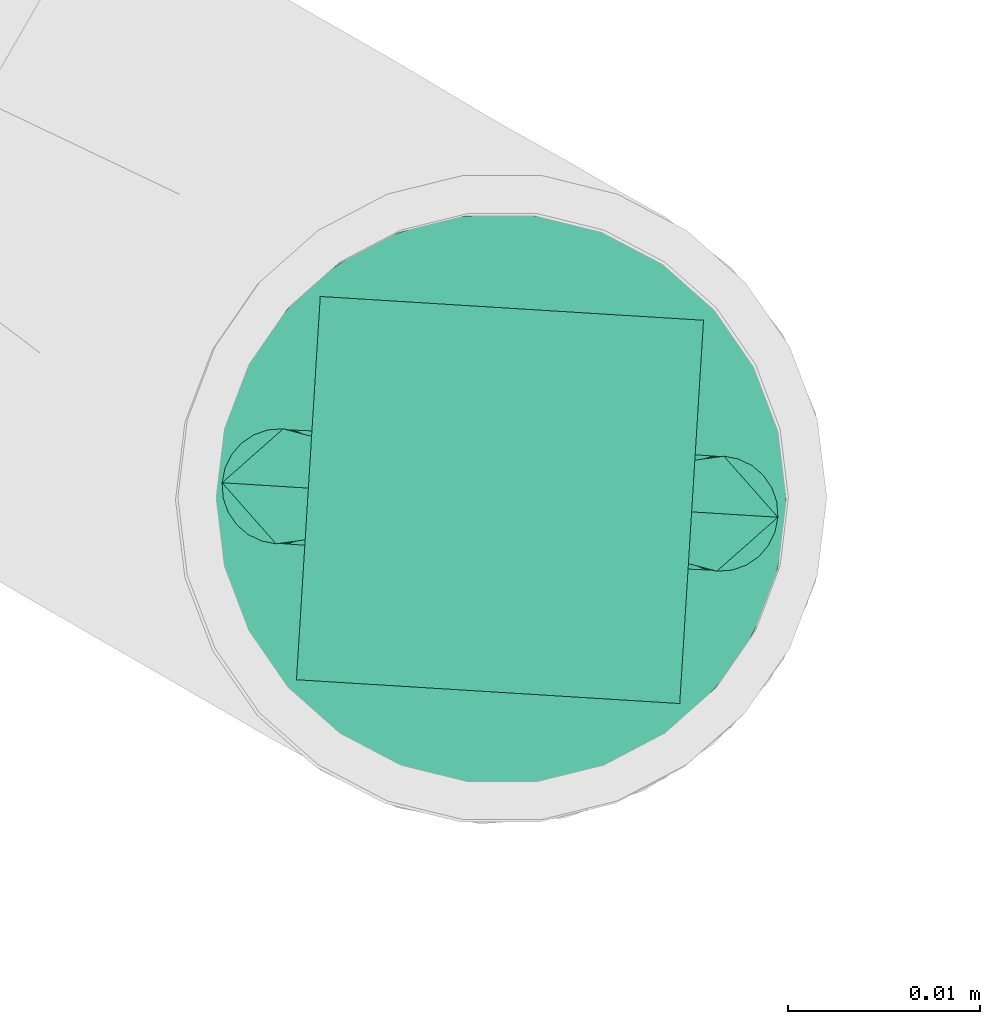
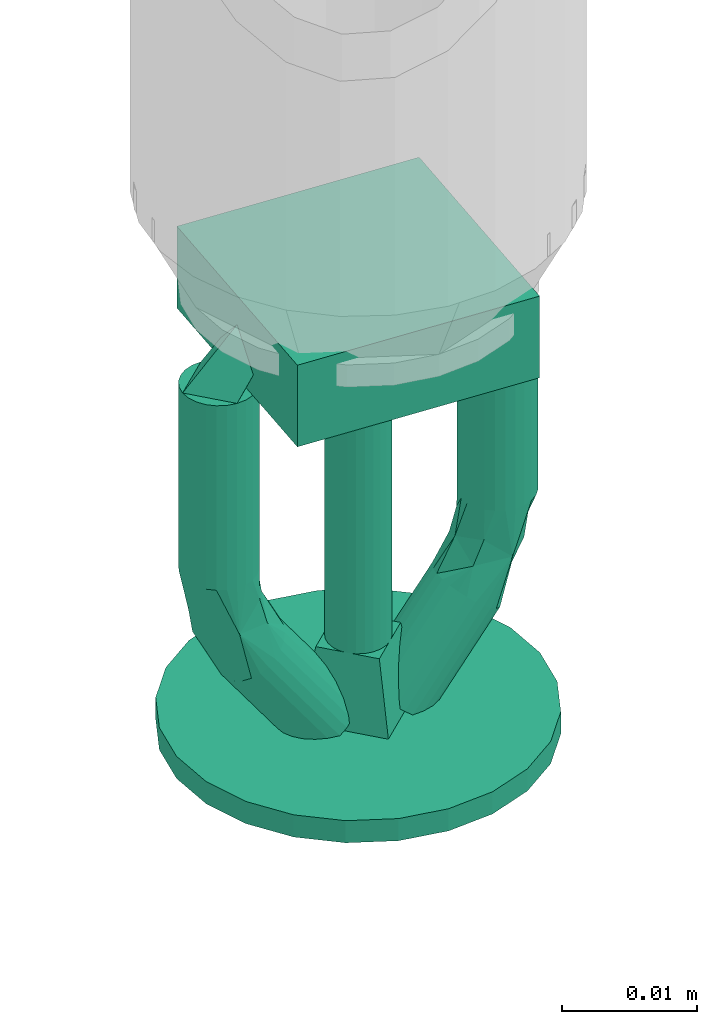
# One storey, part 93 of 95: 1 flow terminal.
"""IFC2X3 building model written with IfcOpenShell, lengths in millimetres."""

from ifc_helpers import new_model, entity, si_unit, converted_unit, derived_unit, direction, frame, origin_with_axes, place, context, subcontext, project, spatial, open_shell, surface_model, source, transform, mapped, type_object, element, save


model = new_model("IFC2X3")

# Units and contexts
model_context = context("Model", 3, precision=0.01, world=frame((0.0, 4.29681676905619e-09, 0.0)), true_north=direction((4.01073788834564e-13, 1.0)))
plan_context = context("Plan", 3, precision=0.01, world=frame((0.0, 4.29681676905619e-09, 0.0)), true_north=direction((4.01073788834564e-13, 1.0)))
body_context = subcontext(model_context, "Body", "Model", "MODEL_VIEW")
ifc_project = project(units=[converted_unit("PLANEANGLEUNIT", "DEGREE", entity("IfcPositiveLengthMeasure", 0.0174532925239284), si_unit("PLANEANGLEUNIT", "RADIAN"), dimensions=[0, 0, 0, 0, 0, 0, 0]), si_unit("AREAUNIT", "SQUARE_METRE"), si_unit("LENGTHUNIT", "METRE", prefix="MILLI"), si_unit("MASSUNIT", "GRAM", prefix="KILO"), si_unit("POWERUNIT", "WATT"), si_unit("PRESSUREUNIT", "PASCAL"), si_unit("FORCEUNIT", "NEWTON", prefix="KILO"), si_unit("ELECTRICVOLTAGEUNIT", "VOLT"), si_unit("ELECTRICCURRENTUNIT", "AMPERE"), si_unit("THERMODYNAMICTEMPERATUREUNIT", "DEGREE_CELSIUS"), si_unit("TIMEUNIT", "SECOND"), si_unit("VOLUMEUNIT", "CUBIC_METRE"), derived_unit("LINEARVELOCITYUNIT", [(si_unit("LENGTHUNIT", "METRE"), 1), (si_unit("TIMEUNIT", "SECOND"), -1)]), derived_unit("VOLUMETRICFLOWRATEUNIT", [(si_unit("VOLUMEUNIT", "CUBIC_METRE"), 1), (si_unit("TIMEUNIT", "SECOND"), -1)]), derived_unit("THERMALTRANSMITTANCEUNIT", [(si_unit("POWERUNIT", "WATT"), 1), (si_unit("THERMODYNAMICTEMPERATUREUNIT", "KELVIN"), -1), (si_unit("AREAUNIT", "SQUARE_METRE"), -1)]), derived_unit("SOUNDPRESSUREUNIT", [(si_unit("PRESSUREUNIT", "PASCAL"), 1)])], contexts=[model_context, plan_context])

# Site, building, storey
site_placement = place(None, frame((0.0, -4.29681676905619e-09, 0.0), z_axis=(0.0, 0.0, 1.0), x_axis=(1.0, 0.0, 0.0)))
site = spatial("IfcSite", under=ifc_project, at=site_placement, CompositionType="ELEMENT")
building_placement = place(site_placement, frame((0.0, 4.29681676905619e-09, 0.0), z_axis=(0.0, 0.0, 1.0), x_axis=(1.0, 0.0, 0.0)))
building = spatial("IfcBuilding", under=site, at=building_placement, Name="mc-building", CompositionType="ELEMENT")
storey_placement = place(building_placement, frame((0.0, 0.0, 210900.0), z_axis=(0.0, 0.0, 1.0), x_axis=(1.0, 0.0, 0.0)))
storey = spatial("IfcBuildingStorey", under=building, at=storey_placement, Name="Nivå F", CompositionType="ELEMENT", Elevation=210900.0)

# Flow terminal
fire_suppression_terminal_type = type_object("IfcFireSuppressionTerminalType", Name="BLP-K115-141C-STD", PredefinedType="NOTDEFINED")
shared_shape = source(origin_with_axes(), body_context, "Body", "SurfaceModel", [
    surface_model("IfcShellBasedSurfaceModel", [(10.0, 10.0, 7.36842), (-10.0, 10.0, 7.36842), (-10.0, -10.0, 7.36842), (10.0, -10.0, 7.36842), (10.0, -10.0, 0.0), (-10.0, -10.0, 0.0), (-10.0, 10.0, 0.0), (10.0, 10.0, 0.0), (3.88229, -14.48889, 42.0), (-3.88229, -14.48889, 42.0), (0.0, -15.0, 42.0), (14.48889, -3.88229, 42.0), (7.5, -12.99038, 42.0), (12.99038, -7.5, 42.0), (10.6066, -10.6066, 42.0), (-10.6066, -10.6066, 42.0), (-7.5, -12.99038, 42.0), (-14.48889, -3.88229, 42.0), (-12.99038, -7.5, 42.0), (-12.99038, 7.5, 42.0), (-15.0, 0.0, 42.0), (14.48889, 3.88229, 42.0), (3.88229, 14.48889, 42.0), (12.99038, 7.5, 42.0), (10.6066, 10.6066, 42.0), (7.5, 12.99038, 42.0), (-7.5, 12.99038, 42.0), (-10.6066, 10.6066, 42.0), (-14.48889, 3.88229, 42.0), (0.0, 15.0, 42.0), (-3.88229, 14.48889, 42.0), (15.0, 0.0, 42.0), (10.6066, 10.6066, 40.0), (0.0, 15.0, 40.0), (3.88229, 14.48889, 40.0), (7.5, 12.99038, 40.0), (12.99038, 7.5, 40.0), (14.48889, 3.88229, 40.0), (-15.0, 0.0, 40.0), (-7.5, 12.99038, 40.0), (-12.99038, 7.5, 40.0), (-10.6066, 10.6066, 40.0), (-3.88229, 14.48889, 40.0), (-14.48889, 3.88229, 40.0), (15.0, 0.0, 40.0), (14.48889, -3.88229, 40.0), (-3.88229, -14.48889, 40.0), (3.88229, -14.48889, 40.0), (12.99038, -7.5, 40.0), (7.5, -12.99038, 40.0), (10.6066, -10.6066, 40.0), (-14.48889, -3.88229, 40.0), (-10.6066, -10.6066, 40.0), (-12.99038, -7.5, 40.0), (-7.5, -12.99038, 40.0), (0.0, -15.0, 40.0), (0.0, -2.5, 33.68421), (0.64705, -2.41481, 33.68421), (1.25, -2.16506, 33.68421), (-1.25, -2.16506, 33.68421), (2.16506, -1.25, 33.68421), (1.76777, -1.76777, 33.68421), (-1.25, 2.16506, 33.68421), (-2.16506, -1.25, 33.68421), (-1.76777, -1.76777, 33.68421), (-0.64705, -2.41481, 33.68421), (-2.41481, -0.64705, 33.68421), (-2.5, 0.0, 33.68421), (-2.41481, 0.64705, 33.68421), (2.41481, -0.64705, 33.68421), (1.25, 2.16506, 33.68421), (2.5, 0.0, 33.68421), (2.41481, 0.64705, 33.68421), (1.76777, 1.76777, 33.68421), (2.16506, 1.25, 33.68421), (0.64705, 2.41481, 33.68421), (-1.76777, 1.76777, 33.68421), (-2.16506, 1.25, 33.68421), (0.0, 2.5, 33.68421), (-0.64705, 2.41481, 33.68421), (0.0, 2.5, 7.36842), (0.64705, 2.41481, 7.36842), (1.25, 2.16506, 7.36842), (-1.25, 2.16506, 7.36842), (1.76777, 1.76777, 7.36842), (2.16506, 1.25, 7.36842), (2.41481, 0.64705, 7.36842), (-2.41481, 0.64705, 7.36842), (-1.76777, 1.76777, 7.36842), (-0.64705, 2.41481, 7.36842), (-2.16506, 1.25, 7.36842), (-2.5, 0.0, 7.36842), (2.5, 0.0, 7.36842), (2.41481, -0.64705, 7.36842), (2.16506, -1.25, 7.36842), (-1.25, -2.16506, 7.36842), (1.25, -2.16506, 7.36842), (1.76777, -1.76777, 7.36842), (0.0, -2.5, 7.36842), (0.64705, -2.41481, 7.36842), (-2.16506, -1.25, 7.36842), (-1.76777, -1.76777, 7.36842), (-2.41481, -0.64705, 7.36842), (-0.64705, -2.41481, 7.36842), (0.0, -5.0, 40.0), (5.0, 0.0, 40.0), (-5.0, 0.0, 40.0), (0.0, 5.0, 40.0), (3.5, 0.0, 33.68421), (0.0, -3.5, 33.68421), (0.0, 3.5, 33.68421), (-3.5, 0.0, 33.68421), (13.0, -2.59808, 7.36842), (12.27646, -2.89778, 7.36842), (11.5, -3.0, 7.36842), (10.72354, -2.89778, 7.36842), (14.09808, -1.5, 7.36842), (13.62132, -2.12132, 7.36842), (14.39778, -0.77646, 7.36842), (10.0, -2.59808, 7.36842), (9.37868, -2.12132, 7.36842), (8.60222, -0.77646, 7.36842), (8.90192, -1.5, 7.36842), (8.5, 0.0, 7.36842), (8.60222, 0.77646, 7.36842), (14.5, 0.0, 7.36842), (14.09808, 1.5, 7.36842), (14.39778, 0.77646, 7.36842), (13.0, 2.59808, 7.36842), (13.62132, 2.12132, 7.36842), (12.27646, 2.89778, 7.36842), (8.90192, 1.5, 7.36842), (9.37868, 2.12132, 7.36842), (10.0, 2.59808, 7.36842), (10.72354, 2.89778, 7.36842), (11.5, 3.0, 7.36842), (8.60222, 0.77646, 21.40351), (8.5, 0.0, 21.40351), (8.90192, 1.5, 21.40351), (9.37868, 2.12132, 21.40351), (10.0, 2.59808, 21.40351), (10.72354, 2.89778, 21.40351), (11.5, 3.0, 21.40351), (13.0, 2.59808, 21.40351), (12.27646, 2.89778, 21.40351), (13.62132, 2.12132, 21.40351), (14.09808, 1.5, 21.40351), (14.39778, 0.77646, 21.40351), (14.5, 0.0, 21.40351), (14.39778, -0.77646, 21.40351), (14.09808, -1.5, 21.40351), (13.62132, -2.12132, 21.40351), (13.0, -2.59808, 21.40351), (12.27646, -2.89778, 21.40351), (11.5, -3.0, 21.40351), (10.0, -2.59808, 21.40351), (10.72354, -2.89778, 21.40351), (9.37868, -2.12132, 21.40351), (8.90192, -1.5, 21.40351), (8.60222, -0.77646, 21.40351), (8.60222, 0.77646, 24.01797), (8.5, 0.0, 24.01797), (8.90192, 1.5, 24.01797), (9.37868, 2.12132, 24.01797), (10.0, 2.59808, 24.01797), (10.72354, 2.89778, 24.01797), (11.5, 3.0, 24.01797), (13.0, 2.59808, 24.01797), (12.27646, 2.89778, 24.01797), (13.62132, 2.12132, 24.01797), (14.09808, 1.5, 24.01797), (14.39778, 0.77646, 24.01797), (14.5, 0.0, 24.01797), (14.39778, -0.77646, 24.01797), (14.09808, -1.5, 24.01797), (13.62132, -2.12132, 24.01797), (13.0, -2.59808, 24.01797), (12.27646, -2.89778, 24.01797), (11.5, -3.0, 24.01797), (10.0, -2.59808, 24.01797), (10.72354, -2.89778, 24.01797), (9.37868, -2.12132, 24.01797), (8.90192, -1.5, 24.01797), (8.60222, -0.77646, 24.01797), (14.03116, 0.0, 26.95469), (8.89443, 3.0, 31.97044), (11.26864, 2.96638, 28.30794), (8.26852, 2.89778, 31.51096), (13.68288, 0.0, 29.13626), (9.23197, 2.26965, 26.65145), (7.98113, 0.0, 27.26812), (8.39468, 2.17743, 28.77318), (6.47609, 0.0, 30.19515), (6.55849, 0.77646, 30.25565), (6.80009, 1.5, 30.433), (7.1844, 2.12132, 30.71512), (11.23037, 0.77646, 33.68523), (11.31277, 0.0, 33.74572), (12.67267, 0.0, 31.10095), (7.68526, 2.59808, 31.0828), (9.52034, 2.89778, 32.42991), (10.1036, 2.59808, 32.85808), (10.60445, 2.12132, 33.22575), (10.98877, 1.5, 33.50787), (11.26864, -2.96638, 28.30794), (9.20533, -2.17689, 26.29582), (8.63781, -2.27879, 28.50134), (10.1036, -2.59808, 32.85808), (9.52034, -2.89778, 32.42991), (8.89443, -3.0, 31.97044), (10.98877, -1.5, 33.50787), (10.60445, -2.12132, 33.22575), (11.23037, -0.77646, 33.68523), (6.55849, -0.77646, 30.25565), (8.26852, -2.89778, 31.51096), (7.68526, -2.59808, 31.0828), (7.1844, -2.12132, 30.71512), (6.80009, -1.5, 30.433), (3.0, -3.0, 40.0), (3.62591, -2.89778, 40.45948), (4.20917, -2.59808, 40.88764), (5.09434, -1.5, 41.53744), (1.28997, -2.12132, 38.74469), (4.71003, -2.12132, 41.25532), (1.79083, 2.59808, 39.11236), (0.90566, -1.5, 38.46256), (1.79083, -2.59808, 39.11236), (2.37409, -2.89778, 39.54052), (0.58166, 0.0, 38.22472), (0.66406, -0.77646, 38.28521), (1.28997, 2.12132, 38.74469), (5.33594, -0.77646, 41.71479), (4.71003, 2.12132, 41.25532), (5.33594, 0.77646, 41.71479), (5.09434, 1.5, 41.53744), (4.20917, 2.59808, 40.88764), (3.62591, 2.89778, 40.45948), (3.0, 3.0, 40.0), (0.66406, 0.77646, 38.28521), (0.90566, 1.5, 38.46256), (2.37409, 2.89778, 39.54052), (5.41834, 0.0, 41.77528), (-10.0, -2.59808, 7.36842), (-10.72354, -2.89778, 7.36842), (-11.5, -3.0, 7.36842), (-12.27646, -2.89778, 7.36842), (-8.60222, -0.77646, 7.36842), (-8.90192, -1.5, 7.36842), (-9.37868, -2.12132, 7.36842), (-13.0, -2.59808, 7.36842), (-13.62132, -2.12132, 7.36842), (-14.39778, -0.77646, 7.36842), (-14.09808, -1.5, 7.36842), (-14.5, 0.0, 7.36842), (-10.0, 2.59808, 7.36842), (-8.90192, 1.5, 7.36842), (-8.60222, 0.77646, 7.36842), (-14.39778, 0.77646, 7.36842), (-9.37868, 2.12132, 7.36842), (-10.72354, 2.89778, 7.36842), (-14.09808, 1.5, 7.36842), (-13.62132, 2.12132, 7.36842), (-13.0, 2.59808, 7.36842), (-12.27646, 2.89778, 7.36842), (-11.5, 3.0, 7.36842), (-8.5, 0.0, 7.36842), (-14.39778, 0.77646, 21.40351), (-14.5, 0.0, 21.40351), (-14.09808, 1.5, 21.40351), (-13.62132, 2.12132, 21.40351), (-13.0, 2.59808, 21.40351), (-12.27646, 2.89778, 21.40351), (-11.5, 3.0, 21.40351), (-10.0, 2.59808, 21.40351), (-10.72354, 2.89778, 21.40351), (-9.37868, 2.12132, 21.40351), (-8.90192, 1.5, 21.40351), (-8.60222, 0.77646, 21.40351), (-8.5, 0.0, 21.40351), (-8.60222, -0.77646, 21.40351), (-8.90192, -1.5, 21.40351), (-9.37868, -2.12132, 21.40351), (-10.0, -2.59808, 21.40351), (-10.72354, -2.89778, 21.40351), (-11.5, -3.0, 21.40351), (-13.0, -2.59808, 21.40351), (-12.27646, -2.89778, 21.40351), (-13.62132, -2.12132, 21.40351), (-14.09808, -1.5, 21.40351), (-14.39778, -0.77646, 21.40351), (-14.39778, 0.77646, 24.01797), (-14.5, 0.0, 24.01797), (-14.09808, 1.5, 24.01797), (-13.62132, 2.12132, 24.01797), (-13.0, 2.59808, 24.01797), (-12.27646, 2.89778, 24.01797), (-11.5, 3.0, 24.01797), (-10.0, 2.59808, 24.01797), (-10.72354, 2.89778, 24.01797), (-9.37868, 2.12132, 24.01797), (-8.90192, 1.5, 24.01797), (-8.60222, 0.77646, 24.01797), (-8.5, 0.0, 24.01797), (-8.60222, -0.77646, 24.01797), (-8.90192, -1.5, 24.01797), (-9.37868, -2.12132, 24.01797), (-10.0, -2.59808, 24.01797), (-10.72354, -2.89778, 24.01797), (-11.5, -3.0, 24.01797), (-13.0, -2.59808, 24.01797), (-12.27646, -2.89778, 24.01797), (-13.62132, -2.12132, 24.01797), (-14.09808, -1.5, 24.01797), (-14.39778, -0.77646, 24.01797), (-14.03116, 0.0, 26.95469), (-11.26864, 2.96638, 28.30794), (-9.20533, 2.17689, 26.29582), (-7.98113, 0.0, 27.26812), (-13.68288, 0.0, 29.13626), (-12.67267, 0.0, 31.10095), (-8.63781, 2.27879, 28.50134), (-10.1036, 2.59808, 32.85808), (-9.52034, 2.89778, 32.42991), (-8.89443, 3.0, 31.97044), (-10.98877, 1.5, 33.50787), (-10.60445, 2.12132, 33.22575), (-11.23037, 0.77646, 33.68523), (-11.31277, 0.0, 33.74572), (-6.55849, 0.77646, 30.25565), (-6.47609, 0.0, 30.19515), (-8.26852, 2.89778, 31.51096), (-7.68526, 2.59808, 31.0828), (-7.1844, 2.12132, 30.71512), (-6.80009, 1.5, 30.433), (-8.89443, -3.0, 31.97044), (-11.26864, -2.96638, 28.30794), (-8.26852, -2.89778, 31.51096), (-9.23197, -2.26965, 26.65145), (-8.39468, -2.17743, 28.77318), (-6.55849, -0.77646, 30.25565), (-6.80009, -1.5, 30.433), (-7.1844, -2.12132, 30.71512), (-11.23037, -0.77646, 33.68523), (-7.68526, -2.59808, 31.0828), (-9.52034, -2.89778, 32.42991), (-10.1036, -2.59808, 32.85808), (-10.60445, -2.12132, 33.22575), (-10.98877, -1.5, 33.50787), (-3.62591, -2.89778, 40.45948), (-3.0, -3.0, 40.0), (-2.37409, -2.89778, 39.54052), (-1.79083, -2.59808, 39.11236), (-1.28997, -2.12132, 38.74469), (-0.90566, -1.5, 38.46256), (-0.66406, -0.77646, 38.28521), (-4.71003, -2.12132, 41.25532), (-4.20917, -2.59808, 40.88764), (-5.09434, -1.5, 41.53744), (-5.41834, 0.0, 41.77528), (-5.33594, -0.77646, 41.71479), (-4.20917, 2.59808, 40.88764), (-5.33594, 0.77646, 41.71479), (-0.58166, 0.0, 38.22472), (-0.66406, 0.77646, 38.28521), (-0.90566, 1.5, 38.46256), (-1.28997, 2.12132, 38.74469), (-1.79083, 2.59808, 39.11236), (-2.37409, 2.89778, 39.54052), (-3.0, 3.0, 40.0), (-4.71003, 2.12132, 41.25532), (-5.09434, 1.5, 41.53744), (-3.62591, 2.89778, 40.45948), (-6.5, 2.0, 1.0), (-4.5, 0.0, 1.0), (-6.5, -2.0, 1.0), (-8.5, 0.0, 1.0), (-7.5, 1.0, 1.0), (-13.0, 1.5, 7.36842), (-10.16667, 1.66667, 7.36842), (-5.5, 1.0, 1.0), (-5.5, -1.0, 1.0), (-10.0, -1.5, 7.36842), (-12.83333, -1.66667, 7.36842), (-7.5, -1.0, 1.0), (4.5, 0.0, 1.0), (6.5, 2.0, 1.0), (8.5, 0.0, 1.0), (6.5, -2.0, 1.0), (5.5, -1.0, 1.0), (12.83333, -1.66667, 7.36842), (10.16667, -1.66667, 7.36842), (7.5, -1.0, 1.0), (7.5, 1.0, 1.0), (10.16667, 1.66667, 7.36842), (12.83333, 1.66667, 7.36842), (5.5, 1.0, 1.0)], [open_shell([[[0, 1, 2]], [[2, 3, 0]], [[4, 5, 6]], [[6, 7, 4]], [[2, 1, 6]], [[6, 5, 2]], [[3, 2, 5]], [[5, 4, 3]], [[0, 3, 4]], [[4, 7, 0]], [[1, 0, 7]], [[7, 6, 1]], [[8, 9, 10]], [[11, 8, 12]], [[13, 11, 12]], [[13, 12, 14]], [[9, 8, 11]], [[9, 15, 16]], [[15, 9, 17]], [[15, 17, 18]], [[9, 11, 17]], [[17, 19, 20]], [[17, 11, 19]], [[19, 11, 21]], [[22, 21, 23]], [[24, 25, 22]], [[24, 22, 23]], [[19, 21, 22]], [[19, 26, 27]], [[28, 20, 19]], [[26, 29, 30]], [[29, 26, 19]], [[22, 29, 19]], [[11, 31, 21]], [[32, 33, 34]], [[32, 34, 35]], [[32, 36, 37]], [[33, 32, 38]], [[38, 32, 37]], [[39, 40, 41]], [[39, 42, 33]], [[40, 38, 43]], [[39, 33, 40]], [[33, 38, 40]], [[37, 44, 38]], [[45, 46, 44]], [[47, 45, 48]], [[49, 47, 48]], [[49, 48, 50]], [[46, 45, 47]], [[51, 52, 53]], [[52, 51, 46]], [[52, 46, 54]], [[51, 44, 46]], [[47, 55, 46]], [[44, 51, 38]], [[51, 17, 38]], [[53, 18, 51]], [[16, 52, 54]], [[53, 52, 15]], [[9, 54, 46]], [[51, 18, 17]], [[17, 20, 38]], [[9, 16, 54]], [[15, 52, 16]], [[15, 18, 53]], [[10, 9, 46]], [[46, 55, 10]], [[47, 8, 55]], [[49, 12, 47]], [[13, 50, 48]], [[49, 50, 14]], [[11, 48, 45]], [[49, 14, 12]], [[12, 8, 47]], [[31, 11, 45]], [[13, 48, 11]], [[13, 14, 50]], [[44, 31, 45]], [[55, 8, 10]], [[37, 21, 44]], [[36, 23, 37]], [[25, 32, 35]], [[36, 32, 24]], [[22, 35, 34]], [[37, 23, 21]], [[21, 31, 44]], [[22, 25, 35]], [[24, 32, 25]], [[24, 23, 36]], [[29, 22, 34]], [[34, 33, 29]], [[42, 30, 33]], [[39, 26, 42]], [[19, 41, 40]], [[39, 41, 27]], [[28, 40, 43]], [[39, 27, 26]], [[26, 30, 42]], [[20, 28, 43]], [[19, 40, 28]], [[19, 27, 41]], [[38, 20, 43]], [[33, 30, 29]], [[56, 57, 58]], [[59, 56, 58]], [[58, 60, 59]], [[60, 58, 61]], [[60, 62, 59]], [[59, 63, 64]], [[59, 65, 56]], [[59, 66, 63]], [[66, 59, 67]], [[59, 68, 67]], [[62, 60, 69]], [[70, 71, 72]], [[73, 72, 74]], [[62, 69, 70]], [[70, 72, 73]], [[62, 70, 75]], [[68, 76, 77]], [[76, 68, 62]], [[62, 78, 79]], [[68, 59, 62]], [[75, 78, 62]], [[70, 69, 71]], [[80, 81, 82]], [[83, 80, 82]], [[84, 85, 86]], [[83, 82, 84]], [[83, 84, 86]], [[83, 87, 88]], [[83, 89, 80]], [[88, 87, 90]], [[87, 83, 91]], [[86, 91, 83]], [[86, 92, 91]], [[92, 93, 94]], [[95, 92, 94]], [[95, 94, 96]], [[96, 94, 97]], [[98, 96, 99]], [[100, 95, 101]], [[95, 100, 102]], [[95, 98, 103]], [[102, 91, 95]], [[96, 98, 95]], [[95, 91, 92]], [[102, 66, 91]], [[100, 63, 102]], [[59, 101, 95]], [[100, 101, 64]], [[65, 95, 103]], [[102, 63, 66]], [[66, 67, 91]], [[65, 59, 95]], [[64, 101, 59]], [[64, 63, 100]], [[56, 65, 103]], [[103, 98, 56]], [[99, 57, 98]], [[96, 58, 99]], [[60, 97, 94]], [[96, 97, 61]], [[69, 94, 93]], [[96, 61, 58]], [[58, 57, 99]], [[71, 69, 93]], [[60, 94, 69]], [[60, 61, 97]], [[92, 71, 93]], [[98, 57, 56]], [[86, 72, 92]], [[85, 74, 86]], [[70, 84, 82]], [[85, 84, 73]], [[75, 82, 81]], [[86, 74, 72]], [[72, 71, 92]], [[75, 70, 82]], [[73, 84, 70]], [[73, 74, 85]], [[78, 75, 81]], [[81, 80, 78]], [[89, 79, 80]], [[83, 62, 89]], [[77, 88, 90]], [[83, 88, 76]], [[68, 90, 87]], [[83, 76, 62]], [[62, 79, 89]], [[67, 68, 87]], [[77, 90, 68]], [[77, 76, 88]], [[91, 67, 87]], [[80, 79, 78]], [[104, 105, 106]], [[107, 106, 105]], [[108, 109, 110]], [[111, 110, 109]], [[106, 111, 104]], [[104, 111, 109]], [[109, 108, 105]], [[109, 105, 104]], [[105, 108, 107]], [[107, 108, 110]], [[110, 111, 106]], [[110, 106, 107]], [[112, 113, 114]], [[112, 114, 115]], [[116, 112, 115]], [[117, 112, 116]], [[118, 116, 119]], [[120, 121, 119]], [[116, 115, 119]], [[122, 121, 120]], [[121, 118, 119]], [[121, 123, 124]], [[125, 118, 121]], [[126, 127, 125]], [[126, 125, 124]], [[124, 128, 126]], [[129, 126, 128]], [[128, 124, 130]], [[131, 132, 124]], [[133, 124, 132]], [[134, 135, 133]], [[124, 133, 135]], [[135, 130, 124]], [[121, 124, 125]], [[136, 123, 137]], [[138, 124, 136]], [[132, 139, 140]], [[138, 139, 131]], [[133, 140, 141]], [[138, 131, 124]], [[124, 123, 136]], [[134, 142, 135]], [[134, 133, 141]], [[132, 140, 133]], [[132, 131, 139]], [[142, 134, 141]], [[143, 130, 144]], [[145, 128, 143]], [[126, 146, 147]], [[145, 146, 129]], [[127, 147, 148]], [[143, 128, 130]], [[130, 135, 144]], [[127, 126, 147]], [[129, 146, 126]], [[129, 128, 145]], [[125, 127, 148]], [[144, 135, 142]], [[149, 125, 148]], [[150, 118, 149]], [[117, 151, 152]], [[150, 151, 116]], [[112, 152, 153]], [[150, 116, 118]], [[118, 125, 149]], [[113, 154, 114]], [[113, 112, 153]], [[117, 152, 112]], [[117, 116, 151]], [[154, 113, 153]], [[155, 115, 156]], [[157, 119, 155]], [[122, 158, 159]], [[157, 158, 120]], [[121, 159, 137]], [[155, 119, 115]], [[115, 114, 156]], [[121, 122, 159]], [[120, 158, 122]], [[120, 119, 157]], [[123, 121, 137]], [[156, 114, 154]], [[160, 137, 161]], [[162, 136, 160]], [[139, 163, 164]], [[162, 163, 138]], [[140, 164, 165]], [[162, 138, 136]], [[136, 137, 160]], [[141, 166, 142]], [[141, 140, 165]], [[139, 164, 140]], [[139, 138, 163]], [[166, 141, 165]], [[167, 144, 168]], [[169, 143, 167]], [[146, 170, 171]], [[169, 170, 145]], [[147, 171, 172]], [[167, 143, 144]], [[144, 142, 168]], [[147, 146, 171]], [[145, 170, 146]], [[145, 143, 169]], [[148, 147, 172]], [[168, 142, 166]], [[173, 148, 172]], [[174, 149, 173]], [[151, 175, 176]], [[174, 175, 150]], [[152, 176, 177]], [[174, 150, 149]], [[149, 148, 173]], [[153, 178, 154]], [[153, 152, 177]], [[151, 176, 152]], [[151, 150, 175]], [[178, 153, 177]], [[179, 156, 180]], [[181, 155, 179]], [[158, 182, 183]], [[181, 182, 157]], [[159, 183, 161]], [[179, 155, 156]], [[156, 154, 180]], [[159, 158, 183]], [[157, 182, 158]], [[157, 155, 181]], [[137, 159, 161]], [[180, 154, 178]], [[170, 184, 171]], [[185, 186, 187]], [[188, 184, 186]], [[165, 186, 166]], [[189, 160, 190]], [[163, 162, 189]], [[190, 191, 189]], [[160, 189, 162]], [[189, 186, 165]], [[164, 163, 189]], [[184, 172, 171]], [[170, 169, 184]], [[184, 167, 186]], [[184, 169, 167]], [[168, 186, 167]], [[166, 186, 168]], [[160, 161, 190]], [[192, 193, 191]], [[193, 194, 191]], [[195, 191, 194]], [[191, 190, 192]], [[191, 187, 186]], [[196, 197, 198]], [[191, 199, 187]], [[200, 186, 185]], [[189, 165, 164]], [[191, 195, 199]], [[201, 202, 198]], [[200, 201, 186]], [[198, 203, 196]], [[198, 188, 186]], [[198, 202, 203]], [[201, 198, 186]], [[189, 191, 186]], [[174, 184, 175]], [[176, 175, 184]], [[204, 176, 184]], [[178, 177, 204]], [[204, 177, 176]], [[173, 184, 174]], [[205, 190, 161]], [[188, 198, 204]], [[205, 204, 206]], [[205, 179, 180]], [[205, 181, 179]], [[182, 205, 183]], [[161, 183, 205]], [[181, 205, 182]], [[180, 204, 205]], [[173, 172, 184]], [[188, 204, 184]], [[204, 198, 207]], [[207, 208, 204]], [[190, 205, 206]], [[208, 209, 204]], [[198, 210, 211]], [[198, 211, 207]], [[212, 198, 197]], [[213, 192, 190]], [[213, 190, 206]], [[210, 198, 212]], [[214, 204, 209]], [[214, 215, 206]], [[206, 216, 217]], [[206, 204, 214]], [[216, 206, 215]], [[213, 206, 217]], [[178, 204, 180]], [[218, 219, 220]], [[218, 220, 221]], [[218, 221, 222]], [[221, 220, 223]], [[221, 224, 225]], [[218, 226, 227]], [[218, 222, 226]], [[225, 228, 229]], [[222, 221, 225]], [[225, 230, 228]], [[221, 231, 232]], [[231, 233, 232]], [[232, 233, 234]], [[232, 235, 236]], [[232, 224, 221]], [[237, 232, 236]], [[238, 230, 239]], [[238, 228, 230]], [[232, 240, 224]], [[225, 224, 230]], [[237, 240, 232]], [[241, 233, 231]], [[238, 192, 228]], [[239, 193, 238]], [[195, 230, 224]], [[239, 230, 194]], [[199, 224, 240]], [[239, 194, 193]], [[193, 192, 238]], [[187, 237, 185]], [[187, 199, 240]], [[195, 224, 199]], [[195, 194, 230]], [[237, 187, 240]], [[235, 200, 236]], [[232, 201, 235]], [[203, 234, 233]], [[232, 234, 202]], [[196, 233, 241]], [[235, 201, 200]], [[200, 185, 236]], [[196, 203, 233]], [[202, 234, 203]], [[202, 201, 232]], [[197, 196, 241]], [[236, 185, 237]], [[231, 197, 241]], [[221, 212, 231]], [[211, 223, 220]], [[221, 223, 210]], [[207, 220, 219]], [[221, 210, 212]], [[212, 197, 231]], [[208, 218, 209]], [[208, 207, 219]], [[211, 220, 207]], [[211, 210, 223]], [[218, 208, 219]], [[226, 214, 227]], [[222, 215, 226]], [[217, 225, 229]], [[222, 225, 216]], [[213, 229, 228]], [[226, 215, 214]], [[214, 209, 227]], [[213, 217, 229]], [[216, 225, 217]], [[216, 215, 222]], [[192, 213, 228]], [[227, 209, 218]], [[242, 243, 244]], [[242, 244, 245]], [[246, 247, 248]], [[242, 246, 248]], [[246, 242, 249]], [[250, 251, 249]], [[242, 245, 249]], [[252, 251, 250]], [[249, 251, 246]], [[253, 254, 251]], [[254, 246, 251]], [[246, 255, 256]], [[246, 254, 255]], [[257, 254, 253]], [[258, 255, 254]], [[259, 254, 257]], [[260, 261, 257]], [[262, 257, 261]], [[263, 264, 262]], [[257, 262, 264]], [[264, 259, 257]], [[256, 265, 246]], [[266, 253, 267]], [[268, 257, 266]], [[261, 269, 270]], [[268, 269, 260]], [[262, 270, 271]], [[268, 260, 257]], [[257, 253, 266]], [[263, 272, 264]], [[263, 262, 271]], [[261, 270, 262]], [[261, 260, 269]], [[272, 263, 271]], [[273, 259, 274]], [[275, 254, 273]], [[255, 276, 277]], [[275, 276, 258]], [[256, 277, 278]], [[273, 254, 259]], [[259, 264, 274]], [[256, 255, 277]], [[258, 276, 255]], [[258, 254, 275]], [[265, 256, 278]], [[274, 264, 272]], [[279, 265, 278]], [[280, 246, 279]], [[248, 281, 282]], [[280, 281, 247]], [[242, 282, 283]], [[280, 247, 246]], [[246, 265, 279]], [[243, 284, 244]], [[243, 242, 283]], [[248, 282, 242]], [[248, 247, 281]], [[284, 243, 283]], [[285, 245, 286]], [[287, 249, 285]], [[252, 288, 289]], [[287, 288, 250]], [[251, 289, 267]], [[285, 249, 245]], [[245, 244, 286]], [[251, 252, 289]], [[250, 288, 252]], [[250, 249, 287]], [[253, 251, 267]], [[286, 244, 284]], [[290, 267, 291]], [[292, 266, 290]], [[269, 293, 294]], [[292, 293, 268]], [[270, 294, 295]], [[292, 268, 266]], [[266, 267, 290]], [[271, 296, 272]], [[271, 270, 295]], [[269, 294, 270]], [[269, 268, 293]], [[296, 271, 295]], [[297, 274, 298]], [[299, 273, 297]], [[276, 300, 301]], [[299, 300, 275]], [[277, 301, 302]], [[297, 273, 274]], [[274, 272, 298]], [[277, 276, 301]], [[275, 300, 276]], [[275, 273, 299]], [[278, 277, 302]], [[298, 272, 296]], [[303, 278, 302]], [[304, 279, 303]], [[281, 305, 306]], [[304, 305, 280]], [[282, 306, 307]], [[304, 280, 279]], [[279, 278, 303]], [[283, 308, 284]], [[283, 282, 307]], [[281, 306, 282]], [[281, 280, 305]], [[308, 283, 307]], [[309, 286, 310]], [[311, 285, 309]], [[288, 312, 313]], [[311, 312, 287]], [[289, 313, 291]], [[309, 285, 286]], [[286, 284, 310]], [[289, 288, 313]], [[287, 312, 288]], [[287, 285, 311]], [[267, 289, 291]], [[310, 284, 308]], [[292, 314, 293]], [[294, 293, 314]], [[315, 294, 314]], [[296, 295, 315]], [[315, 295, 294]], [[290, 314, 292]], [[316, 317, 302]], [[318, 319, 315]], [[316, 315, 320]], [[316, 297, 298]], [[316, 299, 297]], [[300, 316, 301]], [[302, 301, 316]], [[299, 316, 300]], [[298, 315, 316]], [[290, 291, 314]], [[318, 315, 314]], [[315, 319, 321]], [[321, 322, 315]], [[317, 316, 320]], [[322, 323, 315]], [[319, 324, 325]], [[319, 325, 321]], [[326, 319, 327]], [[328, 329, 317]], [[328, 317, 320]], [[324, 319, 326]], [[330, 315, 323]], [[330, 331, 320]], [[320, 332, 333]], [[320, 315, 330]], [[332, 320, 331]], [[328, 320, 333]], [[296, 315, 298]], [[312, 314, 313]], [[334, 335, 336]], [[318, 314, 335]], [[307, 335, 308]], [[337, 303, 317]], [[305, 304, 337]], [[317, 338, 337]], [[303, 337, 304]], [[337, 335, 307]], [[306, 305, 337]], [[314, 291, 313]], [[312, 311, 314]], [[314, 309, 335]], [[314, 311, 309]], [[310, 335, 309]], [[308, 335, 310]], [[303, 302, 317]], [[329, 339, 338]], [[339, 340, 338]], [[341, 338, 340]], [[338, 317, 329]], [[338, 336, 335]], [[342, 327, 319]], [[338, 343, 336]], [[344, 335, 334]], [[337, 307, 306]], [[338, 341, 343]], [[345, 346, 319]], [[344, 345, 335]], [[319, 347, 342]], [[319, 318, 335]], [[319, 346, 347]], [[345, 319, 335]], [[337, 338, 335]], [[348, 349, 350]], [[351, 348, 350]], [[352, 353, 354]], [[352, 354, 351]], [[348, 351, 354]], [[348, 355, 356]], [[355, 348, 357]], [[357, 358, 359]], [[360, 357, 348]], [[357, 361, 358]], [[360, 348, 354]], [[362, 363, 364]], [[364, 360, 354]], [[360, 365, 366]], [[364, 365, 360]], [[366, 367, 368]], [[361, 369, 370]], [[369, 361, 360]], [[360, 368, 371]], [[361, 357, 360]], [[366, 368, 360]], [[364, 354, 362]], [[361, 327, 358]], [[370, 326, 361]], [[325, 369, 360]], [[370, 369, 324]], [[321, 360, 371]], [[370, 324, 326]], [[326, 327, 361]], [[322, 368, 323]], [[322, 321, 371]], [[325, 360, 321]], [[325, 324, 369]], [[368, 322, 371]], [[366, 330, 367]], [[365, 331, 366]], [[333, 364, 363]], [[365, 364, 332]], [[328, 363, 362]], [[366, 331, 330]], [[330, 323, 367]], [[328, 333, 363]], [[332, 364, 333]], [[332, 331, 365]], [[329, 328, 362]], [[367, 323, 368]], [[354, 329, 362]], [[353, 339, 354]], [[341, 352, 351]], [[353, 352, 340]], [[343, 351, 350]], [[353, 340, 339]], [[339, 329, 354]], [[336, 349, 334]], [[336, 343, 350]], [[341, 351, 343]], [[341, 340, 352]], [[349, 336, 350]], [[356, 344, 348]], [[355, 345, 356]], [[347, 357, 359]], [[355, 357, 346]], [[342, 359, 358]], [[356, 345, 344]], [[344, 334, 348]], [[347, 359, 342]], [[346, 357, 347]], [[346, 345, 355]], [[358, 327, 342]], [[348, 334, 349]], [[372, 373, 374]], [[374, 375, 372]], [[265, 264, 253]], [[253, 244, 265]], [[264, 372, 376]], [[377, 375, 253]], [[375, 377, 376]], [[264, 378, 379]], [[379, 372, 264]], [[264, 376, 377]], [[378, 373, 379]], [[378, 265, 373]], [[244, 374, 380]], [[381, 373, 265]], [[373, 381, 380]], [[244, 382, 383]], [[383, 374, 244]], [[244, 380, 381]], [[382, 375, 383]], [[382, 253, 375]], [[135, 123, 114]], [[114, 125, 135]], [[384, 385, 386]], [[386, 387, 384]], [[388, 387, 114]], [[386, 125, 389]], [[114, 390, 388]], [[390, 123, 384]], [[391, 114, 387]], [[114, 391, 389]], [[391, 386, 389]], [[390, 384, 388]], [[392, 385, 135]], [[384, 123, 393]], [[135, 394, 392]], [[394, 125, 386]], [[395, 135, 385]], [[135, 395, 393]], [[395, 384, 393]], [[394, 386, 392]]])]),
])
flow_terminal_placement = place(storey_placement, frame((525498.34286, 456100.08663, 2962.5), z_axis=(0.0, 0.0, -1.0), x_axis=(0.998078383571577, -0.0619640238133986, 0.0)))
element("IfcFlowTerminal", 1, at=flow_terminal_placement, inside=storey, type_object=fire_suppression_terminal_type, Name="BLP-K115-141C-STD", context=body_context, shape_type="MappedRepresentation", body=[
    mapped(shared_shape, transform((0.0, 0.0, 0.0), scale=1.0)),
])

save(model, "model.ifc")
